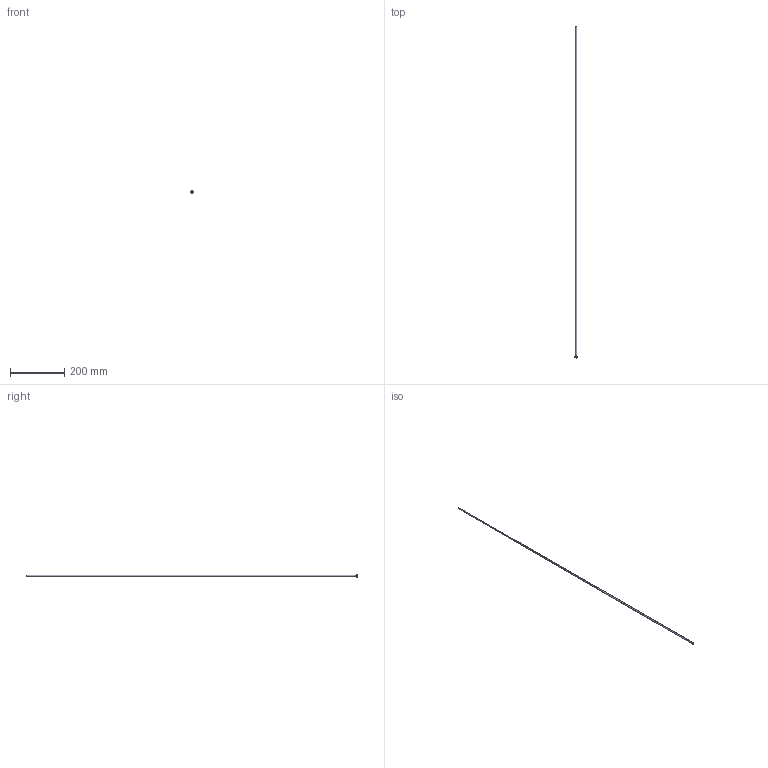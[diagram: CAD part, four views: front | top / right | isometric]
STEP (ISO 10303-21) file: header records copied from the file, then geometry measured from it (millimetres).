
FILE_DESCRIPTION(/* description */ (''),/* implementation_level */ '2;1');
FILE_NAME(/* name */ 'C:/Users/drich/Desktop/PT16-187-48 v1.step',/* time_stamp */ '2019-12-27T15:21:07-06:00',/* author */ (''),/* organization */ (''),/* preprocessor_version */ 'ST-DEVELOPER v18',/* originating_system */ 'Autodesk Translation Framework v8.12.0.6',/* authorisation */ '');
FILE_SCHEMA (('CONFIG_CONTROL_DESIGN','AUTOMOTIVE_DESIGN { 1 0 10303 214 3 1 1 }'));
Length unit declared in the file: inch
Products named in the file (1): PT16-187-48
Bounding box: 7.62 x 1219.2 x 7.62 mm (x, y, z)
Volume: 4326.5 mm3; surface area: 34449.6 mm2
Topology: 1 solids, 1 shells, 25 faces, 62 edges, 41 vertices
Faces by surface type: plane 16, cylinder 5, torus 2, cone 2
Full cylindrical faces by diameter (mm): 3.962 x1, 4.242 x1, 4.724 x1, 5.969 x1, 7.616 x1
Entity records: 798 total; most frequent: DIRECTION 145, CARTESIAN_POINT 129, ORIENTED_EDGE 124, EDGE_CURVE 62, AXIS2_PLACEMENT_3D 57, VERTEX_POINT 41, LINE 31, VECTOR 31
